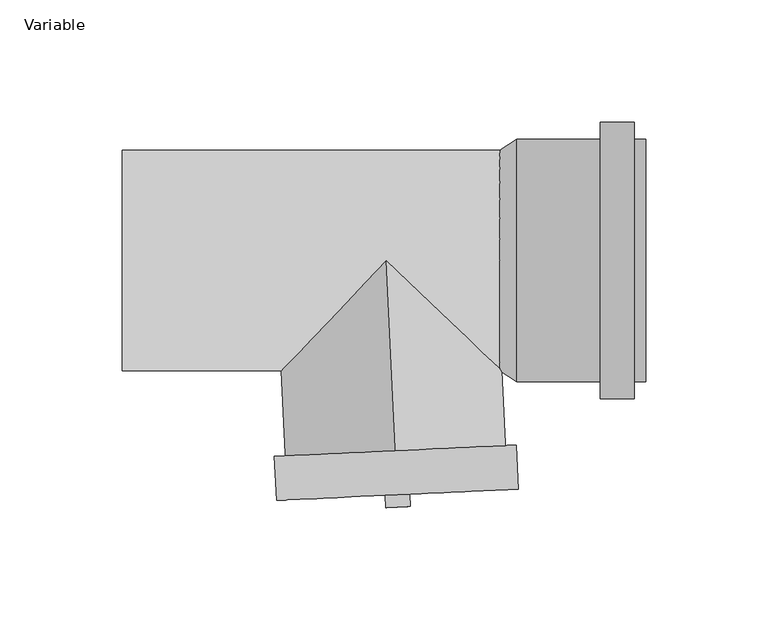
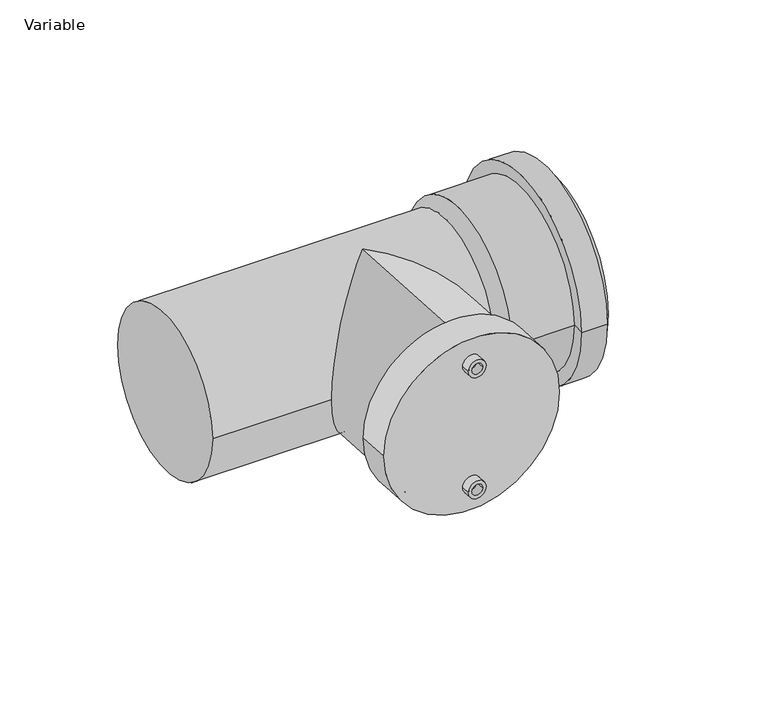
"""IFC4 building model written with IfcOpenShell, lengths in millimetres: pipe fitting geometry, AliaxisFR_Friaphon_TeeAccessPlug_FR : Variable."""

from ifc_helpers import new_model, si_unit, point, frame, frame_2d, origin, place, context, project, spatial, polyline, circle_curve, ellipse_curve, trimmed, segment, composite_curve, outline, extrude, source, transform, mapped, element, save
from ifc_brep_helpers import plane_surface, cylinder_surface, revolved_surface, advanced_brep


def variable_d3433d80(model_context):
    return source(origin(), model_context, "Body", "SolidModel", [
        extrude(outline(composite_curve([segment(trimmed(circle_curve(frame_2d((0.0, -5.0)), 5.0), [point((0.0, -10.0))], [point((0.0, 0.0))], False, "CARTESIAN"), True, "CONTINUOUS"), segment(trimmed(circle_curve(frame_2d((0.0, -5.0)), 5.0), [point((0.0, 0.0))], [point((0.0, -10.0))], False, "CARTESIAN"), True, "CONTINUOUS")], self_intersect=False), holes=[composite_curve([segment(trimmed(circle_curve(frame_2d((0.0, -5.0)), 3.0), [point((0.0, -8.0))], [point((0.0, -2.0))], True, "CARTESIAN"), True, "CONTINUOUS"), segment(trimmed(circle_curve(frame_2d((0.0, -5.0)), 3.0), [point((0.0, -2.0))], [point((0.0, -8.0))], True, "CARTESIAN"), True, "CONTINUOUS")], self_intersect=False)]), frame((9.7463126, -100.5274839, 35.0), z_axis=(-0.04710645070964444, 0.9988898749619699, 0.0), x_axis=(0.0, 0.0, 1.0)), (0.0, 0.0, 1.0), 5.0),
        extrude(outline(composite_curve([segment(trimmed(circle_curve(frame_2d((-70.0, -5.0)), 5.0), [point((-70.0, -10.0))], [point((-70.0, 0.0))], False, "CARTESIAN"), True, "CONTINUOUS"), segment(trimmed(circle_curve(frame_2d((-70.0, -5.0)), 5.0), [point((-70.0, 0.0))], [point((-70.0, -10.0))], False, "CARTESIAN"), True, "CONTINUOUS")], self_intersect=False), holes=[composite_curve([segment(trimmed(circle_curve(frame_2d((-70.0, -5.0)), 3.0), [point((-70.0, -8.0))], [point((-70.0, -2.0))], True, "CARTESIAN"), True, "CONTINUOUS"), segment(trimmed(circle_curve(frame_2d((-70.0, -5.0)), 3.0), [point((-70.0, -2.0))], [point((-70.0, -8.0))], True, "CARTESIAN"), True, "CONTINUOUS")], self_intersect=False)]), frame((9.7463126, -100.5274839, 35.0), z_axis=(-0.04710645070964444, 0.9988898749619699, 0.0), x_axis=(0.0, 0.0, 1.0)), (0.0, 0.0, 1.0), 5.0),
        advanced_brep(
        [(-44.9287178, -98.1003361, 0.0), (53.9613798, -93.4367975, 0.0), (-45.776634, -80.1203183, 0.0), (53.1134637, -75.4567797, 0.0), (-41.2816295, -79.9083393, 0.0), (48.6184592, -75.6687587, 0.0), (-40.522038, -96.0154385, 0.0), (49.3780507, -91.775858, 0.0)],
        [
            (0, 1, circle_curve(frame((4.516331, -95.7685668, 0.0), z_axis=(0.04710645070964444, -0.9988898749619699, 0.0), x_axis=(0.9988898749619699, 0.04710645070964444, 0.0)), 49.5)),
            (1, 0, circle_curve(frame((4.516331, -95.7685668, 0.0), z_axis=(0.04710645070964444, -0.9988898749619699, 0.0), x_axis=(0.9988898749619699, 0.04710645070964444, 0.0)), 49.5)),
            (2, 3, circle_curve(frame((3.6684148, -77.788549, 0.0), z_axis=(-0.04710645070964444, 0.9988898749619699, 0.0), x_axis=(0.9988898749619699, 0.04710645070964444, 0.0)), 49.5)),
            (3, 2, circle_curve(frame((3.6684148, -77.788549, 0.0), z_axis=(-0.04710645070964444, 0.9988898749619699, 0.0), x_axis=(0.9988898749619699, 0.04710645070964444, 0.0)), 49.5)),
            (4, 5, circle_curve(frame((3.6684148, -77.788549, 0.0), z_axis=(0.04710645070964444, -0.9988898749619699, 0.0), x_axis=(0.9988898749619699, 0.04710645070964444, 0.0)), 45.0)),
            (5, 4, circle_curve(frame((3.6684148, -77.788549, 0.0), z_axis=(0.04710645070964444, -0.9988898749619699, 0.0), x_axis=(0.9988898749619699, 0.04710645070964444, 0.0)), 45.0)),
            (0, 2),
            (3, 1),
            (6, 7, circle_curve(frame((4.4280064, -93.8956482, 0.0), z_axis=(-0.04710645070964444, 0.9988898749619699, 0.0), x_axis=(0.9988898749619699, 0.04710645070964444, 0.0)), 45.0)),
            (7, 6, circle_curve(frame((4.4280064, -93.8956482, 0.0), z_axis=(-0.04710645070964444, 0.9988898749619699, 0.0), x_axis=(0.9988898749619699, 0.04710645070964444, 0.0)), 45.0)),
            (7, 5),
            (4, 6),
        ],
        [
            plane_surface(frame((53.9613798, -93.4367975, 0.0), z_axis=(0.04710645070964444, -0.9988898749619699, 0.0), x_axis=(0.0, 0.0, 1.0))),
            plane_surface(frame((53.1134637, -75.4567797, 0.0), z_axis=(-0.04710645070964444, 0.9988898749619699, 0.0), x_axis=(0.0, 0.0, -1.0))),
            cylinder_surface(frame((3.6684148, -77.788549, 0.0), z_axis=(0.04710645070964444, -0.9988898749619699, 0.0), x_axis=(0.9988898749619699, 0.04710645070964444, 0.0)), 49.5),
            plane_surface(frame((49.3780507, -91.775858, 0.0), z_axis=(-0.04710645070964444, 0.9988898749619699, 0.0), x_axis=(0.0, 0.0, 1.0))),
            revolved_surface(polyline([(49.37805069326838, -91.77585800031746, 0.0), (48.61845917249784, -75.66875870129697, 0.0)]), (3.6684148, -77.788549, 0.0), (0.04710645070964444, -0.9988898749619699, 0.0)),
        ],
        [
            (0, [[1, 2]]),
            (1, [[3, 4], [5, 6]]),
            (2, [[-1, 7, -4, 8]]),
            (2, [[-2, -8, -3, -7]]),
            (3, [[9, 10]]),
            (4, [[-10, 11, -5, 12]]),
            (4, [[-9, -12, -6, -11]]),
        ],
    ),
        advanced_brep(
        [(106.0, -49.6, 0.0), (106.0, 49.6, 0.0), (106.0, 45.0, 0.0), (106.0, -45.0, 0.0), (87.5, -56.5, 0.0), (87.5, 56.5, 0.0), (101.4, 56.5, 0.0), (101.4, -56.5, 0.0), (87.5, -49.6, 0.0), (87.5, 49.6, 0.0), (53.3, -49.6, 0.0), (53.3, 49.6, 0.0), (46.4, 45.0, 0.0), (46.4, -45.0, 0.0), (101.4, -49.6, 0.0), (101.4, 49.6, 0.0)],
        [
            (0, 1, circle_curve(frame((106.0, 0.0, 0.0), z_axis=(1.0, 0.0, 0.0), x_axis=(0.0, 1.0, 0.0)), 49.6)),
            (1, 2),
            (2, 3, circle_curve(frame((106.0, 0.0, 0.0), z_axis=(-1.0, 0.0, 0.0), x_axis=(0.0, 1.0, 0.0)), 45.0)),
            (3, 0),
            (1, 0, circle_curve(frame((106.0, 0.0, 0.0), z_axis=(1.0, 0.0, 0.0), x_axis=(0.0, 1.0, 0.0)), 49.6)),
            (3, 2, circle_curve(frame((106.0, 0.0, 0.0), z_axis=(-1.0, 0.0, 0.0), x_axis=(0.0, 1.0, 0.0)), 45.0)),
            (4, 5, circle_curve(frame((87.5, 0.0, 0.0), z_axis=(1.0, 0.0, 0.0), x_axis=(0.0, 1.0, 0.0)), 56.5)),
            (5, 6),
            (6, 7, circle_curve(frame((101.4, 0.0, 0.0), z_axis=(-1.0, 0.0, 0.0), x_axis=(0.0, 1.0, 0.0)), 56.5)),
            (7, 4),
            (5, 4, circle_curve(frame((87.5, 0.0, 0.0), z_axis=(1.0, 0.0, 0.0), x_axis=(0.0, 1.0, 0.0)), 56.5)),
            (7, 6, circle_curve(frame((101.4, 0.0, 0.0), z_axis=(-1.0, 0.0, 0.0), x_axis=(0.0, 1.0, 0.0)), 56.5)),
            (8, 9, circle_curve(frame((87.5, 0.0, 0.0), z_axis=(1.0, 0.0, 0.0), x_axis=(0.0, 1.0, 0.0)), 49.6)),
            (9, 5),
            (4, 8),
            (9, 8, circle_curve(frame((87.5, 0.0, 0.0), z_axis=(1.0, 0.0, 0.0), x_axis=(0.0, 1.0, 0.0)), 49.6)),
            (10, 11, circle_curve(frame((53.3, 0.0, 0.0), z_axis=(1.0, 0.0, 0.0), x_axis=(0.0, 1.0, 0.0)), 49.6)),
            (11, 9),
            (8, 10),
            (11, 10, circle_curve(frame((53.3, 0.0, 0.0), z_axis=(1.0, 0.0, 0.0), x_axis=(0.0, 1.0, 0.0)), 49.6)),
            (2, 12),
            (12, 13, circle_curve(frame((46.4, 0.0, 0.0), z_axis=(-1.0, 0.0, 0.0), x_axis=(0.0, 1.0, 0.0)), 45.0)),
            (13, 3),
            (13, 12, circle_curve(frame((46.4, 0.0, 0.0), z_axis=(-1.0, 0.0, 0.0), x_axis=(0.0, 1.0, 0.0)), 45.0)),
            (12, 11),
            (10, 13),
            (14, 15, circle_curve(frame((101.4, 0.0, 0.0), z_axis=(1.0, 0.0, 0.0), x_axis=(0.0, 1.0, 0.0)), 49.6)),
            (15, 1),
            (0, 14),
            (15, 14, circle_curve(frame((101.4, 0.0, 0.0), z_axis=(1.0, 0.0, 0.0), x_axis=(0.0, 1.0, 0.0)), 49.6)),
            (6, 15),
            (14, 7),
        ],
        [
            plane_surface(frame((106.0, 0.0, 0.0), z_axis=(1.0, 0.0, 0.0), x_axis=(0.0, 1.0, 0.0))),
            cylinder_surface(frame((46.4, 0.0, 0.0), z_axis=(-1.0, 0.0, 0.0), x_axis=(0.0, 1.0, 0.0)), 56.5),
            plane_surface(frame((87.5, 0.0, 0.0), z_axis=(-1.0, 0.0, 0.0), x_axis=(0.0, 1.0, 0.0))),
            cylinder_surface(frame((46.4, 0.0, 0.0), z_axis=(-1.0, 0.0, 0.0), x_axis=(0.0, 1.0, 0.0)), 49.6),
            revolved_surface(polyline([(46.4, 45.0, 0.0), (106.0, 45.0, 0.0)]), (46.4, 0.0, 0.0), (-1.0, 0.0, 0.0)),
            revolved_surface(polyline([(53.3, 49.6, 0.0), (46.4, 45.0, 0.0)]), (46.4, 0.0, 0.0), (-1.0, 0.0, 0.0)),
            plane_surface(frame((101.4, 0.0, 0.0), z_axis=(1.0, 0.0, 0.0), x_axis=(0.0, 1.0, 0.0))),
        ],
        [
            (0, [[1, 2, 3, 4]]),
            (0, [[5, -4, 6, -2]]),
            (1, [[7, 8, 9, 10]]),
            (1, [[11, -10, 12, -8]]),
            (2, [[13, 14, -7, 15]]),
            (2, [[16, -15, -11, -14]]),
            (3, [[17, 18, -13, 19]]),
            (3, [[20, -19, -16, -18]]),
            (4, [[-3, 21, 22, 23]]),
            (4, [[-6, -23, 24, -21]]),
            (5, [[-22, 25, -17, 26]]),
            (5, [[-24, -26, -20, -25]]),
            (3, [[27, 28, -1, 29]]),
            (3, [[30, -29, -5, -28]]),
            (6, [[-9, 31, -27, 32]]),
            (6, [[-12, -32, -30, -31]]),
        ],
    ),
        advanced_brep(
        [(51.0, -45.0, 0.0), (51.0, 45.0, 0.0), (-108.0, -45.0, 0.0), (-108.0, 45.0, 0.0), (47.1721573, -45.0, 0.0), (0.0, 0.0, -45.0), (-42.927865, -45.0, 0.0), (0.0, 0.0, 45.0), (4.4280064, -93.8956482, -45.0), (4.4280064, -93.8956482, 45.0)],
        [
            (0, 1, circle_curve(frame((51.0, 0.0, 0.0), z_axis=(1.0, 0.0, 0.0), x_axis=(0.0, 1.0, 0.0)), 45.0)),
            (1, 0, circle_curve(frame((51.0, 0.0, 0.0), z_axis=(1.0, 0.0, 0.0), x_axis=(0.0, 1.0, 0.0)), 45.0)),
            (2, 3, circle_curve(frame((-108.0, 0.0, 0.0), z_axis=(-1.0, 0.0, 0.0), x_axis=(0.0, 1.0, 0.0)), 45.0)),
            (3, 2, circle_curve(frame((-108.0, 0.0, 0.0), z_axis=(-1.0, 0.0, 0.0), x_axis=(0.0, 1.0, 0.0)), 45.0)),
            (0, 4),
            (4, 5, ellipse_curve(frame((0.0, 0.0, 0.0), z_axis=(0.6902512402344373, 0.7235697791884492, 0.0), x_axis=(0.7235697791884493, -0.6902512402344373, 0.0)), 65.1936532, 45.0)),
            (5, 6, ellipse_curve(frame((0.0, 0.0, 0.0), z_axis=(-0.7235697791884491, 0.6902512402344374, 0.0), x_axis=(0.6902512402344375, 0.7235697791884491, 0.0)), 62.1916521, 45.0)),
            (6, 2),
            (3, 1),
            (6, 7, ellipse_curve(frame((0.0, 0.0, 0.0), z_axis=(-0.7235697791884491, 0.6902512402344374, 0.0), x_axis=(0.6902512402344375, 0.7235697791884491, 0.0)), 62.1916521, 45.0)),
            (7, 4, ellipse_curve(frame((0.0, 0.0, 0.0), z_axis=(0.6902512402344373, 0.7235697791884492, 0.0), x_axis=(0.7235697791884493, -0.6902512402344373, 0.0)), 65.1936532, 45.0)),
            (8, 9, circle_curve(frame((4.4280064, -93.8956482, 0.0), z_axis=(0.04710645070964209, -0.9988898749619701, 0.0), x_axis=(0.0, 0.0, 1.0)), 45.0)),
            (9, 8, circle_curve(frame((4.4280064, -93.8956482, 0.0), z_axis=(0.04710645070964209, -0.9988898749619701, 0.0), x_axis=(0.0, 0.0, 1.0)), 45.0)),
            (8, 5),
            (7, 9),
        ],
        [
            plane_surface(frame((51.0, 45.0, 0.0), z_axis=(1.0, 0.0, 0.0), x_axis=(0.0, 0.0, 1.0))),
            plane_surface(frame((-108.0, 45.0, 0.0), z_axis=(-1.0, 0.0, 0.0), x_axis=(0.0, 0.0, -1.0))),
            cylinder_surface(frame((-108.0, 0.0, 0.0), z_axis=(1.0, 0.0, 0.0), x_axis=(0.0, 1.0, 0.0)), 45.0),
            plane_surface(frame((4.4280064, -93.8956482, 45.0), z_axis=(0.047106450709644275, -0.9988898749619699, 0.0), x_axis=(-0.9988898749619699, -0.047106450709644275, 0.0))),
            cylinder_surface(frame((4.4280064, -93.8956482, 0.0), z_axis=(-0.04710645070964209, 0.9988898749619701, 0.0), x_axis=(0.0, 0.0, 1.0)), 45.0),
        ],
        [
            (0, [[1, 2]]),
            (1, [[3, 4]]),
            (2, [[-1, 5, 6, 7, 8, -4, 9]]),
            (2, [[-2, -9, -3, -8, 10, 11, -5]]),
            (3, [[12, 13]]),
            (4, [[-12, 14, -6, -11, 15]]),
            (4, [[-13, -15, -10, -7, -14]]),
        ],
    ),
    ])


if __name__ == "__main__":
    model = new_model("IFC4")
    model_context = context("Model", 3, world=origin())
    ifc_project = project(units=[si_unit("LENGTHUNIT", "METRE", prefix="MILLI")], contexts=[model_context])
    site = spatial("IfcSite", under=ifc_project)
    building = spatial("IfcBuilding", under=site)
    placement = place(None, origin())
    variable_shape = variable_d3433d80(model_context)
    element("IfcPipeFitting", 1, ObjectType="AliaxisFR_Friaphon_TeeAccessPlug_FR : Variable", at=placement, inside=building, context=model_context, shape_type="MappedRepresentation", body=[
        mapped(variable_shape, transform((0.0, 0.0, 0.0), x_axis=(1.0, 0.0, 0.0), y_axis=(0.0, 1.0, 0.0), z_axis=(0.0, 0.0, 1.0))),
    ])
    save(model, "model.ifc")
